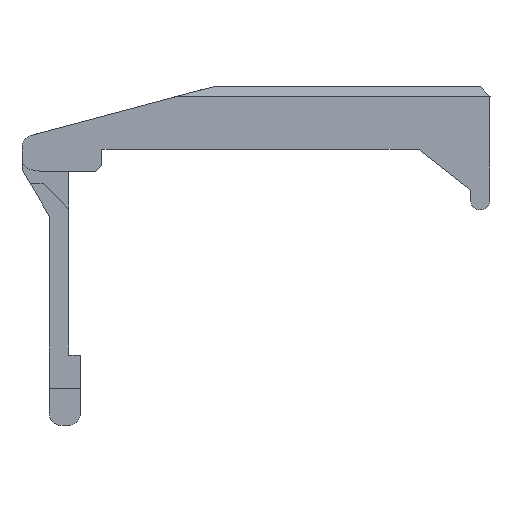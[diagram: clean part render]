
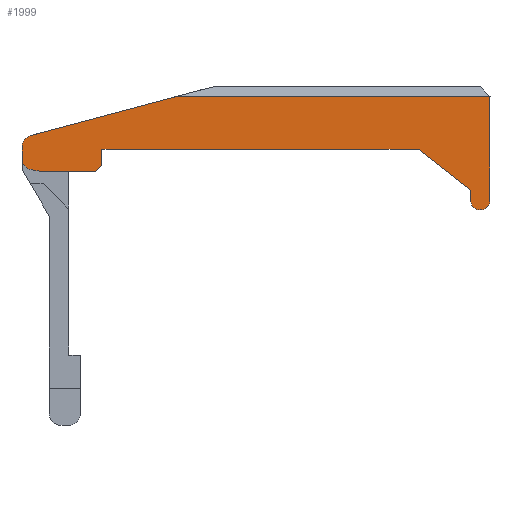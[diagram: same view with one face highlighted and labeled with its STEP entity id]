
A CAD part, left-side view. The second image highlights one B-rep face of the part: STEP entity #1999.
In plain terms, the highlighted planar face has unit normal (-1, 0, 0).
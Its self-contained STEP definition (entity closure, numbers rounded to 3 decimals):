
#1999=ADVANCED_FACE('',(#2442),#2241,.T.);
#2241=PLANE('',#7224);
#2442=FACE_OUTER_BOUND('',#2688,.T.);
#2688=EDGE_LOOP('',(#4336,#4337,#4338,#4339,#4340,#4341,#4342,#4343,#4344,
#4345,#4346,#4347,#4348,#4349,#4350));
#2935=LINE('',#8841,#3563);
#2939=LINE('',#8851,#3567);
#2942=LINE('',#8858,#3570);
#2946=LINE('',#8866,#3574);
#2951=LINE('',#8880,#3579);
#2956=LINE('',#8895,#3584);
#2980=LINE('',#8949,#3608);
#2991=LINE('',#8970,#3619);
#2996=LINE('',#8979,#3624);
#2997=LINE('',#8981,#3625);
#2998=LINE('',#8983,#3626);
#2999=LINE('',#8985,#3627);
#3563=VECTOR('',#7560,1.);
#3567=VECTOR('',#7570,1.);
#3570=VECTOR('',#7575,1.);
#3574=VECTOR('',#7581,1.);
#3579=VECTOR('',#7594,1.);
#3584=VECTOR('',#7607,1.);
#3608=VECTOR('',#7653,1.);
#3619=VECTOR('',#7672,1.);
#3624=VECTOR('',#7681,1.);
#3625=VECTOR('',#7684,1.);
#3626=VECTOR('',#7685,1.);
#3627=VECTOR('',#7686,1.);
#4336=ORIENTED_EDGE('',*,*,#6399,.T.);
#4337=ORIENTED_EDGE('',*,*,#6339,.T.);
#4338=ORIENTED_EDGE('',*,*,#6388,.F.);
#4339=ORIENTED_EDGE('',*,*,#6356,.T.);
#4340=ORIENTED_EDGE('',*,*,#6353,.F.);
#4341=ORIENTED_EDGE('',*,*,#6349,.T.);
#4342=ORIENTED_EDGE('',*,*,#6346,.F.);
#4343=ORIENTED_EDGE('',*,*,#6342,.T.);
#4344=ORIENTED_EDGE('',*,*,#6360,.T.);
#4345=ORIENTED_EDGE('',*,*,#6405,.F.);
#4346=ORIENTED_EDGE('',*,*,#6406,.T.);
#4347=ORIENTED_EDGE('',*,*,#6407,.T.);
#4348=ORIENTED_EDGE('',*,*,#6404,.T.);
#4349=ORIENTED_EDGE('',*,*,#6334,.T.);
#4350=ORIENTED_EDGE('',*,*,#6337,.T.);
#5763=VERTEX_POINT('',#8828);
#5767=VERTEX_POINT('',#8840);
#5768=VERTEX_POINT('',#8842);
#5769=VERTEX_POINT('',#8846);
#5770=VERTEX_POINT('',#8850);
#5773=VERTEX_POINT('',#8857);
#5774=VERTEX_POINT('',#8859);
#5777=VERTEX_POINT('',#8867);
#5779=VERTEX_POINT('',#8873);
#5782=VERTEX_POINT('',#8881);
#5784=VERTEX_POINT('',#8887);
#5787=VERTEX_POINT('',#8894);
#5814=VERTEX_POINT('',#8978);
#5815=VERTEX_POINT('',#8982);
#5816=VERTEX_POINT('',#8984);
#6334=EDGE_CURVE('',#5768,#5767,#2935,.T.);
#6337=EDGE_CURVE('',#5767,#5769,#7094,.T.);
#6339=EDGE_CURVE('',#5763,#5770,#2939,.T.);
#6342=EDGE_CURVE('',#5774,#5773,#2942,.T.);
#6346=EDGE_CURVE('',#5774,#5777,#2946,.T.);
#6349=EDGE_CURVE('',#5779,#5777,#7095,.T.);
#6353=EDGE_CURVE('',#5779,#5782,#2951,.T.);
#6356=EDGE_CURVE('',#5784,#5782,#7098,.T.);
#6360=EDGE_CURVE('',#5773,#5787,#2956,.T.);
#6388=EDGE_CURVE('',#5784,#5770,#2980,.T.);
#6399=EDGE_CURVE('',#5769,#5763,#2991,.T.);
#6404=EDGE_CURVE('',#5814,#5768,#2996,.T.);
#6405=EDGE_CURVE('',#5815,#5787,#2997,.T.);
#6406=EDGE_CURVE('',#5815,#5816,#2998,.T.);
#6407=EDGE_CURVE('',#5816,#5814,#2999,.T.);
#7094=CIRCLE('',#7194,1.25);
#7095=CIRCLE('',#7199,1.5);
#7098=CIRCLE('',#7204,1.5);
#7194=AXIS2_PLACEMENT_3D('',#8847,#7565,#7566);
#7199=AXIS2_PLACEMENT_3D('',#8872,#7586,#7587);
#7204=AXIS2_PLACEMENT_3D('',#8886,#7600,#7601);
#7224=AXIS2_PLACEMENT_3D('',#8986,#7687,#7688);
#7560=DIRECTION('',(0.,0.,-1.));
#7565=DIRECTION('',(-1.,0.,0.));
#7566=DIRECTION('',(0.,0.,1.));
#7570=DIRECTION('',(0.,1.,0.));
#7575=DIRECTION('',(0.,-1.,0.));
#7581=DIRECTION('',(0.,0.985,0.174));
#7586=DIRECTION('',(-1.,0.,0.));
#7587=DIRECTION('',(0.,0.,1.));
#7594=DIRECTION('',(0.,0.,1.));
#7600=DIRECTION('',(-1.,0.,0.));
#7601=DIRECTION('',(0.,0.,1.));
#7607=DIRECTION('',(0.,-0.707,0.707));
#7653=DIRECTION('',(0.,-0.966,0.259));
#7672=DIRECTION('',(0.,0.,1.));
#7681=DIRECTION('',(0.,-0.788,-0.616));
#7684=DIRECTION('',(0.,0.,-1.));
#7685=DIRECTION('',(0.,-1.,0.));
#7686=DIRECTION('',(0.,-1.,0.));
#7687=DIRECTION('',(-1.,0.,0.));
#7688=DIRECTION('',(0.,-1.,0.));
#8828=CARTESIAN_POINT('',(-26.425,-21.35,10.44));
#8840=CARTESIAN_POINT('',(-26.425,-18.85,-2.86));
#8841=CARTESIAN_POINT('',(-26.425,-18.85,3.365));
#8842=CARTESIAN_POINT('',(-26.425,-18.85,-1.56));
#8846=CARTESIAN_POINT('',(-26.425,-21.35,-2.86));
#8847=CARTESIAN_POINT('',(-26.425,-20.1,-2.86));
#8850=CARTESIAN_POINT('',(-26.425,18.815,10.44));
#8851=CARTESIAN_POINT('',(-26.425,-21.35,10.44));
#8857=CARTESIAN_POINT('',(-26.425,29.218,0.79));
#8858=CARTESIAN_POINT('',(-26.425,-21.35,0.79));
#8859=CARTESIAN_POINT('',(-26.425,35.9,0.79));
#8866=CARTESIAN_POINT('',(-26.425,-19.183,-8.923));
#8867=CARTESIAN_POINT('',(-26.425,37.41,1.056));
#8872=CARTESIAN_POINT('',(-26.425,37.15,2.534));
#8873=CARTESIAN_POINT('',(-26.425,38.65,2.534));
#8880=CARTESIAN_POINT('',(-26.425,38.65,-0.138));
#8881=CARTESIAN_POINT('',(-26.425,38.65,3.974));
#8886=CARTESIAN_POINT('',(-26.425,37.15,3.974));
#8887=CARTESIAN_POINT('',(-26.425,37.538,5.423));
#8894=CARTESIAN_POINT('',(-26.425,28.4,1.608));
#8895=CARTESIAN_POINT('',(-26.425,32.867,-2.859));
#8949=CARTESIAN_POINT('',(-26.425,31.295,7.096));
#8970=CARTESIAN_POINT('',(-26.425,-21.35,3.365));
#8978=CARTESIAN_POINT('',(-26.425,-12.13,3.69));
#8979=CARTESIAN_POINT('',(-26.425,-18.013,-0.906));
#8981=CARTESIAN_POINT('',(-26.425,28.4,3.365));
#8982=CARTESIAN_POINT('',(-26.425,28.4,3.69));
#8983=CARTESIAN_POINT('',(-26.425,28.4,3.69));
#8984=CARTESIAN_POINT('',(-26.425,26.318,3.69));
#8985=CARTESIAN_POINT('',(-26.425,28.4,3.69));
#8986=CARTESIAN_POINT('',(-26.425,-21.35,3.365));
